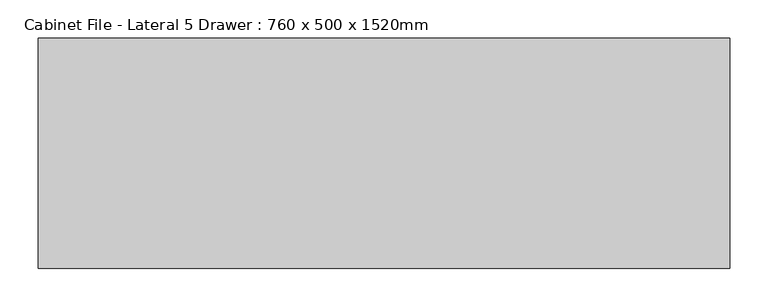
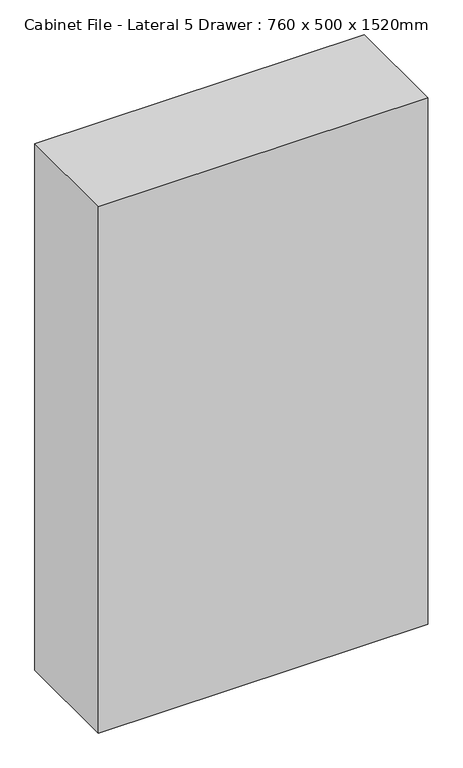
"""IFC4 building model written with IfcOpenShell, lengths in millimetres: furniture geometry, Cabinet File - Lateral 5 Drawer : 760 x 500 x 1520mm."""

import ifcopenshell
import ifcopenshell.guid

model = None  # the IFC model being written
_history = None  # IfcOwnerHistory: only IFC2X3 demands one
_inside = {}  # id of a spatial element -> (the spatial element, [elements in it])
_under = {}  # id of a project, library or spatial element -> (it, [spatial elements below it])
_declared = {}  # id of a project -> (the project, [libraries it declares])
_typed = {}  # id of a type object -> (the type object, [elements of that type])
_made_of = {}  # id of a material, layer set ... -> (it, [elements and type objects made of it])


def new_model(schema):
    """Start an empty IFC model of exactly this schema.

    Asked for "IFC4X3", IfcOpenShell would pick the latest addendum, in which some entities
    have other attributes; the version numbers below select the first issue.
    IFC2X3 requires an IfcOwnerHistory on every rooted entity: one is made here for all.
    """
    global model, _history
    if schema == "IFC4X3":
        model = ifcopenshell.file(schema_version=(4, 3, 0, 0))
    else:
        model = ifcopenshell.file(schema=schema)
    _inside.clear()
    _under.clear()
    _declared.clear()
    _typed.clear()
    _made_of.clear()
    _history = None
    if model.schema == "IFC2X3":
        org = make("IfcOrganization", Name="unknown")
        user = make(
            "IfcPersonAndOrganization",
            ThePerson=make("IfcPerson", FamilyName="unknown"),
            TheOrganization=org,
        )
        app = make(
            "IfcApplication",
            ApplicationDeveloper=org,
            Version="unknown",
            ApplicationFullName="unknown",
            ApplicationIdentifier="unknown",
        )
        _history = make(
            "IfcOwnerHistory",
            OwningUser=user,
            OwningApplication=app,
            ChangeAction="ADDED",
            CreationDate=0,
        )
    return model


def make(cls, **values):
    """One entity of the class cls with the attributes given. An attribute that is None is left unset."""
    return model.create_entity(
        cls, **{name: value for name, value in values.items() if value is not None}
    )


def rooted(cls, **values):
    """An entity with a GlobalId (a new one), such as an element, a storey or a relation."""
    return make(cls, GlobalId=ifcopenshell.guid.new(), OwnerHistory=_history, **values)


def si_unit(unit_type, name, prefix=None):
    """IfcSIUnit, for example si_unit("LENGTHUNIT", "METRE", prefix="MILLI")."""
    return make("IfcSIUnit", UnitType=unit_type, Prefix=prefix, Name=name)


def assignment(units):
    """IfcUnitAssignment: the units of a project."""
    return None if units is None else make("IfcUnitAssignment", Units=units)


def point(xyz):
    """IfcCartesianPoint."""
    return None if xyz is None else make("IfcCartesianPoint", Coordinates=xyz)


def direction(xyz):
    """IfcDirection."""
    return None if xyz is None else make("IfcDirection", DirectionRatios=xyz)


def frame(location, z_axis=None, x_axis=None):
    """IfcAxis2Placement3D, a coordinate frame: its origin and axes. An axis left out is left unset."""
    return make(
        "IfcAxis2Placement3D",
        Location=point(location),
        Axis=direction(z_axis),
        RefDirection=direction(x_axis),
    )


def origin():
    """The frame at (0, 0, 0) with its axes left unset."""
    return frame((0.0, 0.0, 0.0))


def place(relative_to, where):
    """IfcLocalPlacement: puts the frame where relative to a parent placement (None: the world)."""
    return make(
        "IfcLocalPlacement", PlacementRelTo=relative_to, RelativePlacement=where
    )


def context(
    kind, dimensions, precision=None, world=None, true_north=None, identifier=None
):
    """IfcGeometricRepresentationContext, for example the 3D "Model" context."""
    return make(
        "IfcGeometricRepresentationContext",
        ContextIdentifier=identifier,
        ContextType=kind,
        CoordinateSpaceDimension=dimensions,
        Precision=precision,
        WorldCoordinateSystem=world,
        TrueNorth=true_north,
    )


def project(units=None, contexts=None):
    """IfcProject with its units and contexts."""
    return rooted(
        "IfcProject",
        Name="project",
        RepresentationContexts=contexts,
        UnitsInContext=assignment(units),
    )


def spatial(cls, under=None, at=None, **own):
    """A site, building, storey or space (cls), placed at a placement, below another one or the project."""
    s = rooted(cls, ObjectPlacement=at, **own)
    if under is not None:
        _under.setdefault(under.id(), (under, []))[1].append(s)
    return s


def polyline(points):
    """IfcPolyline through the points."""
    return make("IfcPolyline", Points=[point(p) for p in points])


def outline(outer, holes=None, kind="AREA"):
    """IfcArbitraryClosedProfileDef: a profile drawn as a closed curve; with holes, ...WithVoids."""
    if holes is None:
        return make("IfcArbitraryClosedProfileDef", ProfileType=kind, OuterCurve=outer)
    return make(
        "IfcArbitraryProfileDefWithVoids",
        ProfileType=kind,
        OuterCurve=outer,
        InnerCurves=holes,
    )


def extrude(swept, where, along, depth):
    """IfcExtrudedAreaSolid: the profile swept, set in the frame where, extruded along a direction by depth."""
    return make(
        "IfcExtrudedAreaSolid",
        SweptArea=swept,
        Position=where,
        ExtrudedDirection=direction(along),
        Depth=depth,
    )


def faces_of(points, faces, orient=None, outer=None):
    """IfcFace entities. A face is a list of loops; a loop is a list of indices into points, from 0.

    orient and outer hold one flag for each loop. By default every Orientation is true, the
    first loop of a face is its IfcFaceOuterBound and the others are IfcFaceBound.
    """
    made = []
    for i, loops in enumerate(faces):
        bounds = []
        for j, loop in enumerate(loops):
            is_outer = j == 0 if outer is None else outer[i][j]
            bounds.append(
                make(
                    "IfcFaceOuterBound" if is_outer else "IfcFaceBound",
                    Bound=make("IfcPolyLoop", Polygon=[points[k] for k in loop]),
                    Orientation=True if orient is None else orient[i][j],
                )
            )
        made.append(make("IfcFace", Bounds=bounds))
    return made


def faceted_brep(points, faces, orient=None, outer=None, voids=None):
    """IfcFacetedBrep: a solid bounded by flat faces; with voids (closed shells), ...WithVoids."""
    shared = [point(p) for p in points]
    hull = make("IfcClosedShell", CfsFaces=faces_of(shared, faces, orient, outer))
    if voids is None:
        return make("IfcFacetedBrep", Outer=hull)
    return make(
        "IfcFacetedBrepWithVoids",
        Outer=hull,
        Voids=[
            make(cls, CfsFaces=faces_of(shared, fs, o, b)) for cls, fs, o, b in voids
        ],
    )


def shape(context_of_items, identifier, shape_type, items):
    """IfcShapeRepresentation: the items that make up one representation, for example the "Body"."""
    return make(
        "IfcShapeRepresentation",
        ContextOfItems=context_of_items,
        RepresentationIdentifier=identifier,
        RepresentationType=shape_type,
        Items=items,
    )


def source(mapping_origin, context_of_items, identifier, shape_type, items):
    """IfcRepresentationMap: a shape defined once, which mapped items show again and again."""
    return make(
        "IfcRepresentationMap",
        MappingOrigin=mapping_origin,
        MappedRepresentation=shape(context_of_items, identifier, shape_type, items),
    )


def transform(
    local_origin,
    x_axis=None,
    y_axis=None,
    z_axis=None,
    scale=None,
    scale2=None,
    scale3=None,
    uniform=True,
):
    """IfcCartesianTransformationOperator3D, or its non-uniform kind. x_axis, y_axis, z_axis: its Axis1, 2, 3."""
    if uniform:
        return make(
            "IfcCartesianTransformationOperator3D",
            Axis1=direction(x_axis),
            Axis2=direction(y_axis),
            LocalOrigin=point(local_origin),
            Scale=scale,
            Axis3=direction(z_axis),
        )
    return make(
        "IfcCartesianTransformationOperator3DnonUniform",
        Axis1=direction(x_axis),
        Axis2=direction(y_axis),
        LocalOrigin=point(local_origin),
        Scale=scale,
        Axis3=direction(z_axis),
        Scale2=scale2,
        Scale3=scale3,
    )


def mapped(mapping_source, mapping_target):
    """IfcMappedItem: shows the shape of a source again, moved by a transform."""
    return make(
        "IfcMappedItem", MappingSource=mapping_source, MappingTarget=mapping_target
    )


def made_of(thing, what):
    """Note that an element or type object is made of a material, layer set ...; save() writes the relation."""
    if what is not None:
        _made_of.setdefault(what.id(), (what, []))[1].append(thing)
    return thing


def element(
    cls,
    number,
    at=None,
    inside=None,
    cuts=None,
    type_object=None,
    material=None,
    context=None,
    identifier="Body",
    shape_type=None,
    held_by="IfcProductDefinitionShape",
    body=None,
    shapes=None,
    **own,
):
    """One element of the class cls, such as IfcWall. Its Tag is "e" and its number.

    at: its placement. inside: the storey or other place that contains it. cuts: it is an
    opening in that element (IfcRelVoidsElement). A single representation is given by context,
    identifier, shape_type and body (its items); several are given by shapes. held_by: the class
    of the entity that holds the representations. save() writes the other relations.
    """
    e = rooted(cls, Tag="e%d" % number, ObjectPlacement=at, **own)
    if body is not None:
        shapes = [shape(context, identifier, shape_type, body)]
    if shapes is not None:
        e.Representation = make(held_by, Representations=shapes)
    if inside is not None:
        _inside.setdefault(inside.id(), (inside, []))[1].append(e)
    if cuts is not None:
        rooted(
            "IfcRelVoidsElement", RelatingBuildingElement=cuts, RelatedOpeningElement=e
        )
    if type_object is not None:
        _typed.setdefault(type_object.id(), (type_object, []))[1].append(e)
    return made_of(e, material)


def aggregate(whole, parts):
    """IfcRelAggregates: a whole, such as a stair, and the parts it consists of."""
    return rooted("IfcRelAggregates", RelatingObject=whole, RelatedObjects=parts)


def save(model, path):
    """Write the relations noted so far, then the file.

    IfcRelAggregates (storeys below a building ...), IfcRelContainedInSpatialStructure (elements
    in a storey), IfcRelDefinesByType, IfcRelAssociatesMaterial and IfcRelDeclares: one each for
    every whole, place, type object, material and project.
    """
    for whole, parts in _under.values():
        aggregate(whole, parts)
    for where, things in _inside.values():
        rooted(
            "IfcRelContainedInSpatialStructure",
            RelatedElements=things,
            RelatingStructure=where,
        )
    for kind, things in _typed.values():
        rooted("IfcRelDefinesByType", RelatedObjects=things, RelatingType=kind)
    for what, things in _made_of.values():
        rooted("IfcRelAssociatesMaterial", RelatedObjects=things, RelatingMaterial=what)
    for by, libraries in _declared.values():
        rooted("IfcRelDeclares", RelatingContext=by, RelatedDefinitions=libraries)
    model.write(path)


def cabinet_file_lateral_5_drawer_760_x_500_x_1520mm_f8146b65(model_context):
    return source(origin(), model_context, "Body", "SolidModel", [
        extrude(outline(polyline([(76.2, -610.9725139), (76.2, 250.9274861), (361.15, 250.9274861), (361.15, -610.9725139), (76.2, -610.9725139)]), holes=[polyline([(335.75, -129.2225139), (297.65, -129.2225139), (297.65, -230.8225139), (335.75, -230.8225139), (335.75, -129.2225139)])]), frame((0.0, 1065.2683761, 0.0), z_axis=(0.0, 1.0, 0.0), x_axis=(0.0, 0.0, 1.0)), (0.0, 0.0, 1.0), 19.05),
        extrude(outline(polyline([(361.15, -610.9725139), (361.15, 250.9274861), (646.1, 250.9274861), (646.1, -610.9725139), (361.15, -610.9725139)]), holes=[polyline([(620.7, -129.2225139), (582.6, -129.2225139), (582.6, -230.8225139), (620.7, -230.8225139), (620.7, -129.2225139)])]), frame((0.0, 1065.2683761, 0.0), z_axis=(0.0, 1.0, 0.0), x_axis=(0.0, 0.0, 1.0)), (0.0, 0.0, 1.0), 19.05),
        extrude(outline(polyline([(1500.95, -610.9725139), (1216.0, -610.9725139), (1216.0, 250.9274861), (1500.95, 250.9274861), (1500.95, -610.9725139)]), holes=[polyline([(1241.4, -129.2225139), (1241.4, -230.8225139), (1279.5, -230.8225139), (1279.5, -129.2225139), (1241.4, -129.2225139)])]), frame((0.0, 1065.2683761, 0.0), z_axis=(0.0, 1.0, 0.0), x_axis=(0.0, 0.0, 1.0)), (0.0, 0.0, 1.0), 19.05),
        extrude(outline(polyline([(1216.0, -610.9725139), (931.05, -610.9725139), (931.05, 250.9274861), (1216.0, 250.9274861), (1216.0, -610.9725139)]), holes=[polyline([(1190.6, -129.2225139), (1152.5, -129.2225139), (1152.5, -230.8225139), (1190.6, -230.8225139), (1190.6, -129.2225139)])]), frame((0.0, 1065.2683761, 0.0), z_axis=(0.0, 1.0, 0.0), x_axis=(0.0, 0.0, 1.0)), (0.0, 0.0, 1.0), 19.05),
        extrude(outline(polyline([(931.05, -610.9725139), (646.1, -610.9725139), (646.1, 250.9274861), (931.05, 250.9274861), (931.05, -610.9725139)]), holes=[polyline([(905.65, -129.2225139), (867.55, -129.2225139), (867.55, -230.8225139), (905.65, -230.8225139), (905.65, -129.2225139)])]), frame((0.0, 1065.2683761, 0.0), z_axis=(0.0, 1.0, 0.0), x_axis=(0.0, 0.0, 1.0)), (0.0, 0.0, 1.0), 19.05),
        faceted_brep([(269.9774861, 784.3183761, 1520.0), (269.9774861, 1084.3183761, 1520.0), (-630.0225139, 1084.3183761, 1520.0), (-630.0225139, 784.3183761, 1520.0), (269.9774861, 784.3183761, 0.0), (-630.0225139, 784.3183761, 0.0), (-630.0225139, 1084.3183761, 0.0), (269.9774861, 1084.3183761, 0.0), (250.9274861, 1084.3183761, 76.2), (250.9274861, 1084.3183761, 1500.95), (-610.9725139, 1084.3183761, 1500.95), (-610.9725139, 1084.3183761, 76.2), (-610.9725139, 803.3683761, 76.2), (-610.9725139, 803.3683761, 1500.95), (250.9274861, 803.3683761, 1500.95), (250.9274861, 803.3683761, 76.2)], [[[0, 1, 2, 3]], [[4, 5, 6, 7]], [[3, 5, 4, 0]], [[2, 6, 5, 3]], [[1, 7, 6, 2], [8, 9, 10, 11]], [[0, 4, 7, 1]], [[12, 13, 14, 15]], [[15, 8, 11, 12]], [[14, 9, 8, 15]], [[13, 10, 9, 14]], [[12, 11, 10, 13]]]),
    ])


if __name__ == "__main__":
    model = new_model("IFC4")
    model_context = context("Model", 3, world=origin())
    ifc_project = project(units=[si_unit("LENGTHUNIT", "METRE", prefix="MILLI")], contexts=[model_context])
    site = spatial("IfcSite", under=ifc_project)
    building = spatial("IfcBuilding", under=site)
    placement = place(None, origin())
    cabinet_file_lateral_5_drawer_760_x_500_x_1520mm_shape = cabinet_file_lateral_5_drawer_760_x_500_x_1520mm_f8146b65(model_context)
    element("IfcFurniture", 1, ObjectType="Cabinet File - Lateral 5 Drawer : 760 x 500 x 1520mm", at=placement, inside=building, context=model_context, shape_type="MappedRepresentation", body=[
        mapped(cabinet_file_lateral_5_drawer_760_x_500_x_1520mm_shape, transform((0.0, 0.0, 0.0), x_axis=(1.0, 0.0, 0.0), y_axis=(0.0, 1.0, 0.0), z_axis=(0.0, 0.0, 1.0))),
    ])
    save(model, "model.ifc")
